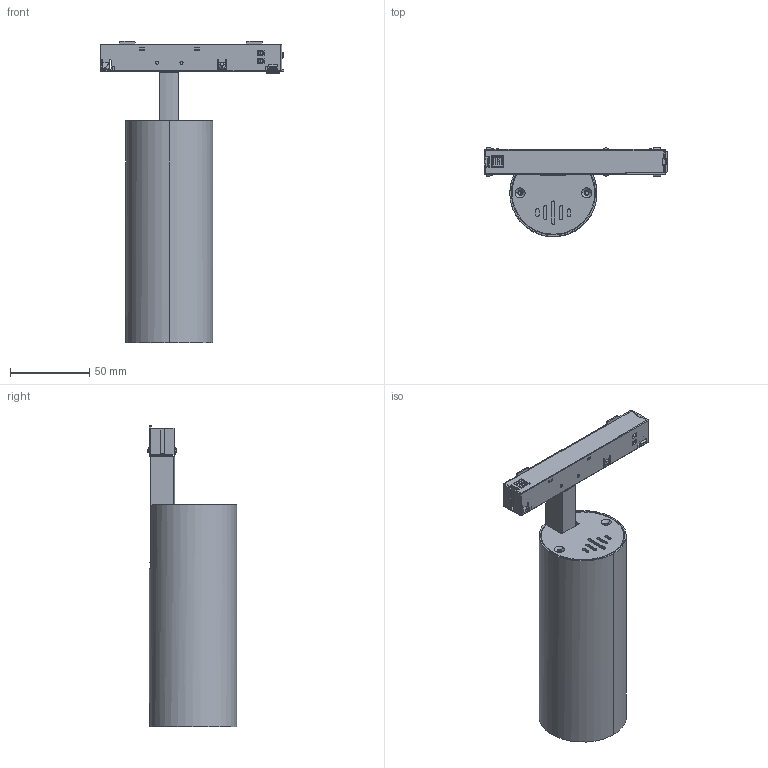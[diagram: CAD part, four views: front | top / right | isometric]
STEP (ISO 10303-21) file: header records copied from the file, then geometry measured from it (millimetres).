
FILE_DESCRIPTION (( 'STEP AP214' ), '1' );
FILE_NAME ('48V長桿搖臂D55.STEP', '2025-09-17T08:30:40', ( '' ), ( '' ), 'SwSTEP 2.0', 'SolidWorks 2018', '' );
FILE_SCHEMA (( 'AUTOMOTIVE_DESIGN' ));
Length unit declared in the file: millimetre
Products named in the file (33): PRO-N140C(2)^PRO-N140C; 882454^882469_PRO-N140C(2)_PRO-N140C; 882599^882469_PRO-N140C(2)_PRO-N140C; 48V長桿搖臂D55; 長款搖臂; 882459^882469_PRO-N140C(2)_PRO-N140C; 倰第; 881974^881976(2)_881976; ______^882468_PRO-N140C(2)_PRO-N140C; 881976(2)^881976; 882602^882469_PRO-N140C(2)_PRO-N140C; 881973^881976(2)_881976; 882611^881976(2)_881976; 882600^882469_PRO-N140C(2)_PRO-N140C; PRO-N140C-prt13^PRO-N140C(2)_PRO-N140C; 882462^PRO-N140C(2)_PRO-N140C; 882612^881976(2)_881976; 882453^PRO-N140C(2)_PRO-N140C; 881975^881976(2)_881976; 882452^PRO-N140C(2)_PRO-N140C; 881585^881976(2)_881976; PRO-N140C; 882460^882469_PRO-N140C(2)_PRO-N140C; 881976; 擴散罩; 882601^882469_PRO-N140C(2)_PRO-N140C; 882455^882469_PRO-N140C(2)_PRO-N140C; 882469^PRO-N140C(2)_PRO-N140C; 嫖埭盓殤; 菁屜; 芵蔉; 882468^PRO-N140C(2)_PRO-N140C; 882461^882469_PRO-N140C(2)_PRO-N140C
Assembly tree (33 placements, depth 5):
  48V長桿搖臂D55
    倰第
    菁屜
    擴散罩
    芵蔉
    嫖埭盓殤
    長款搖臂
    PRO-N140C
      PRO-N140C(2)^PRO-N140C
        882468^PRO-N140C(2)_PRO-N140C
          ______^882468_PRO-N140C(2)_PRO-N140C
        882469^PRO-N140C(2)_PRO-N140C
          882454^882469_PRO-N140C(2)_PRO-N140C
          882455^882469_PRO-N140C(2)_PRO-N140C
          882599^882469_PRO-N140C(2)_PRO-N140C
          882600^882469_PRO-N140C(2)_PRO-N140C
          882459^882469_PRO-N140C(2)_PRO-N140C  x2
          882460^882469_PRO-N140C(2)_PRO-N140C
          882461^882469_PRO-N140C(2)_PRO-N140C
          882601^882469_PRO-N140C(2)_PRO-N140C
          882602^882469_PRO-N140C(2)_PRO-N140C
        882452^PRO-N140C(2)_PRO-N140C
        882453^PRO-N140C(2)_PRO-N140C
        882462^PRO-N140C(2)_PRO-N140C
    881976
      881976(2)^881976
        881585^881976(2)_881976
        882612^881976(2)_881976
        881973^881976(2)_881976  x2
        882611^881976(2)_881976
        881974^881976(2)_881976
        881975^881976(2)_881976
  PRO-N140C-prt13^PRO-N140C(2)_PRO-N140C
Bounding box: 116.1 x 56.31 x 190.19 mm (x, y, z)
Volume: 127197.6 mm3; surface area: 132446 mm2
Topology: 35 solids, 127 shells, 1976 faces, 5643 edges, 3842 vertices
Faces by surface type: plane 1386, cylinder 430, cone 73, bspline 63, sphere 16, torus 8
Entity records: 72251 total; most frequent: CARTESIAN_POINT 20540, ORIENTED_EDGE 10534, DIRECTION 9510, EDGE_CURVE 5512, LINE 3890, VECTOR 3890, VERTEX_POINT 3760, AXIS2_PLACEMENT_3D 2810
